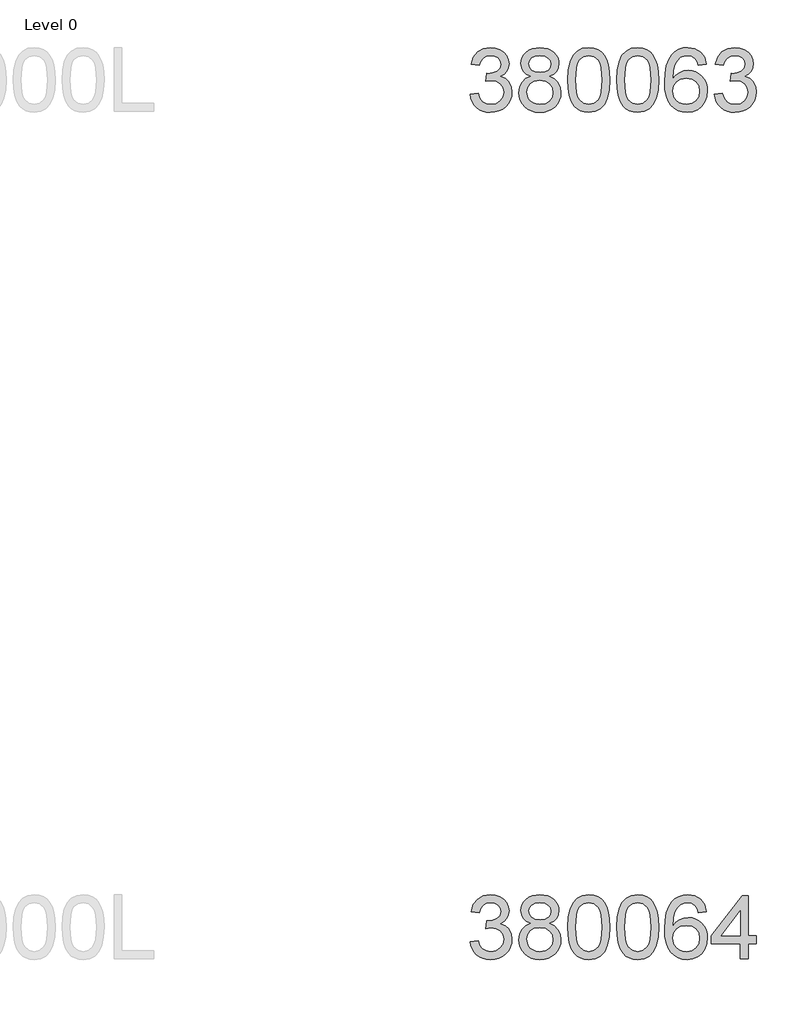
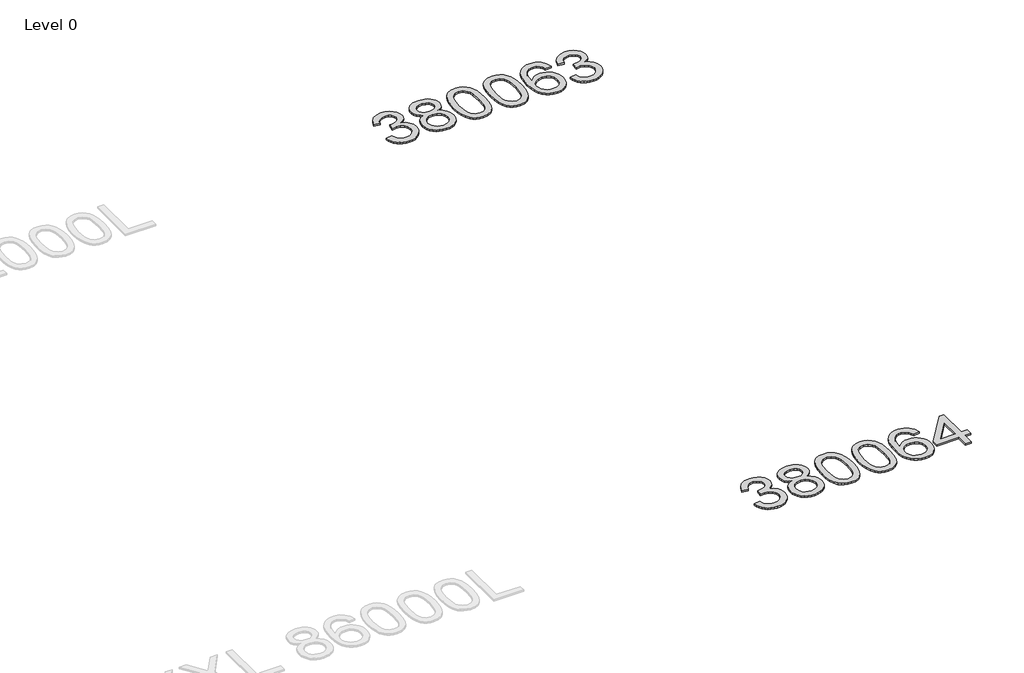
# One storey, part 31 of 37: 2 proxies.
"""IFC4 building model written with IfcOpenShell, lengths in millimetres."""

from ifc_helpers import new_model, si_unit, origin, origin_with_axes, place, context, project, spatial, polyline, outline, extrude, element, save

model = new_model("IFC4")

# Units and contexts
model_context = context("Model", 3, world=origin())
ifc_project = project(units=[si_unit("LENGTHUNIT", "METRE", prefix="MILLI")], contexts=[model_context])

# Site, building, storey
site = spatial("IfcSite", under=ifc_project)
building = spatial("IfcBuilding", under=site)
storey = spatial("IfcBuildingStorey", under=building, Name="Level 0", Elevation=0.0)

# Proxies
placement = place(None, origin())
element("IfcBuildingElementProxy", 1, Name="300mm Arial", ObjectType="300mm Arial", at=placement, inside=storey, context=model_context, shape_type="SweptSolid", body=[
    extrude(outline(polyline([(27688.7153576, -9620.925676), (27726.3864739, -9616.2167865), (27734.8201687, -9639.8899929), (27747.1718066, -9655.8744656), (27764.0483932, -9664.979545), (27786.0569335, -9668.0145714), (27811.8822496, -9663.8391108), (27831.8214537, -9651.3127288), (27844.5685649, -9632.6243235), (27848.8176019, -9609.9627926), (27844.6053531, -9588.4508929), (27831.9686065, -9571.0040893), (27812.8387428, -9559.4433976), (27789.1471423, -9555.5898337), (27762.733215, -9559.710112), (27766.9270698, -9522.0389957), (27772.9603345, -9522.4804541), (27795.5298949, -9519.7765215), (27815.7082223, -9511.6647235), (27829.9452556, -9497.942725), (27834.6909333, -9478.4081911), (27831.2512366, -9462.1386099), (27820.9321467, -9448.9408433), (27805.1867973, -9440.1944488), (27785.4683223, -9437.278984), (27765.7130592, -9440.22204), (27749.5630396, -9449.0512079), (27737.7724217, -9463.7664877), (27731.0953635, -9484.3678794), (27693.4242472, -9479.6589899), (27704.5158893, -9445.8322404), (27724.2527583, -9420.5771415), (27751.2552968, -9404.8501862), (27784.1439472, -9399.6078677), (27807.8263506, -9402.1922387), (27829.5773736, -9409.9453518), (27847.916291, -9422.1774281), (27861.362378, -9438.198689), (27869.6121317, -9456.6571681), (27872.3620496, -9476.2008991), (27869.7500874, -9494.4110579), (27861.9142009, -9510.9289595), (27848.9647547, -9525.0004458), (27831.0121133, -9535.8713587), (27854.5933492, -9545.3995024), (27872.067744, -9561.6230984), (27882.8834747, -9583.6592299), (27886.4887182, -9610.6249802), (27884.6860964, -9629.7364498), (27879.2782311, -9647.3396033), (27870.2651222, -9663.4344406), (27857.6467698, -9678.0209617), (27842.2739009, -9690.1242793), (27824.9972427, -9698.7695062), (27805.8167952, -9703.9566423), (27784.7325584, -9705.6856877), (27765.676271, -9704.2095612), (27748.3122408, -9699.7811817), (27732.6404678, -9692.4005492), (27718.660952, -9682.0676636), (27706.9393119, -9669.3895304), (27698.0411662, -9654.9731547), (27691.9665147, -9638.8185366), (27688.7153576, -9620.925676)])), origin_with_axes(), (0.0, 0.0, 1.0), 10.0),
    extrude(outline(polyline([(27974.3389387, -9534.988442), (27954.1698083, -9525.0556281), (27940.0155485, -9511.5911471), (27931.6554302, -9494.8709104), (27928.8687241, -9475.1708295), (27930.3862373, -9459.8071577), (27934.938777, -9445.7218758), (27942.5263431, -9432.9149839), (27953.1489357, -9421.3864818), (27966.2961185, -9411.8583382), (27981.4574553, -9405.0525213), (28017.8225905, -9399.6078677), (28054.4084549, -9405.18128), (28069.7353385, -9412.1480452), (28083.0848564, -9421.9015166), (28093.9005871, -9433.6553464), (28101.626109, -9446.6231867), (28106.2614221, -9460.8050376), (28107.8065265, -9476.2008991), (28105.0566086, -9495.2663835), (28096.8068549, -9511.7015117), (28082.9652948, -9525.0832192), (28063.4399579, -9534.988442), (28086.6257206, -9546.9354097), (28103.5023072, -9564.5293662), (28113.793806, -9586.9241826), (28117.2243056, -9613.2737305), (28115.5228514, -9632.0633034), (28110.4184887, -9649.2893779), (28101.9112175, -9664.9519538), (28090.001038, -9679.0510313), (28075.3133493, -9690.7036935), (28058.473551, -9699.0270236), (28039.481643, -9704.0210217), (28018.3376253, -9705.6856877), (27997.1936076, -9704.0141239), (27978.2016996, -9698.9994325), (27961.3619013, -9690.6416134), (27946.6742126, -9678.9406667), (27934.764033, -9664.7427209), (27926.2567619, -9648.8939047), (27921.1523992, -9631.3942181), (27919.450945, -9612.2436609), (27923.0194003, -9584.8732405), (27933.7247664, -9562.3588624), (27951.0152202, -9545.4730788), (27974.3389387, -9534.988442)]), holes=[polyline([(27966.5398404, -9476.2744755), (27969.8783695, -9492.7188007), (27979.8939568, -9505.8521879), (27996.2922967, -9514.4606266), (28018.7790837, -9517.3301062), (28040.7416388, -9514.4790207), (28056.8916584, -9505.9257643), (28066.8244723, -9493.2338355), (28070.1354102, -9477.9667327), (28066.7141077, -9462.1202158), (28056.4502, -9449.0144197), (28040.0794512, -9440.2128429), (28018.3376253, -9437.278984), (27996.4578436, -9440.1484636), (27980.114686, -9448.7569023), (27969.9335518, -9461.3752547), (27966.5398404, -9476.2744755)]), polyline([(27957.1220613, -9610.9192858), (27963.4128434, -9639.2829876), (27972.1224496, -9651.4506846), (27985.6697041, -9660.5097787), (28001.8933001, -9666.1383732), (28018.6319309, -9668.0145714), (28044.273306, -9664.069037), (28063.5135343, -9652.2324338), (28075.5432755, -9634.3073836), (28079.5531893, -9612.0965081), (28075.4145168, -9589.5085536), (28062.9984995, -9571.1880303), (28043.3168128, -9559.0479244), (28017.3811321, -9555.0012225), (27992.098442, -9558.9927421), (27973.0513517, -9570.9673011), (27961.1043839, -9588.9383365), (27957.1220613, -9610.9192858)])]), origin_with_axes(), (0.0, 0.0, 1.0), 10.0),
    extrude(outline(polyline([(28150.1865324, -9552.7203541), (28152.9548444, -9504.4818275), (28161.2597804, -9466.0105679), (28175.018567, -9436.717964), (28194.1484308, -9416.0154047), (28218.7873274, -9403.709752), (28249.0732127, -9399.6078677), (28272.2865666, -9402.0358889), (28293.0718993, -9409.3199524), (28310.4543236, -9421.1749497), (28323.4589521, -9437.3157722), (28333.2814014, -9457.6044643), (28341.1172879, -9481.9030701), (28346.2492417, -9512.7591724), (28347.959893, -9552.7203541), (28345.2191721, -9600.6829692), (28336.9970095, -9639.0622584), (28323.3209963, -9668.3824534), (28304.2187237, -9689.1677861), (28279.5246448, -9701.5562123), (28249.0732127, -9705.6856877), (28228.3246681, -9703.892263), (28209.9305684, -9698.5119888), (28193.8909134, -9689.5448652), (28180.2057032, -9676.9908921), (28167.0723159, -9654.2971715), (28157.6913251, -9626.0208417), (28152.0627305, -9592.1619025), (28150.1865324, -9552.7203541)]), holes=[polyline([(28187.8576487, -9552.6467777), (28192.2722326, -9611.9033701), (28197.7904625, -9632.1713688), (28205.5159844, -9646.1991691), (28225.2344594, -9662.5607208), (28249.0732127, -9668.0145714), (28272.911966, -9662.5423267), (28292.6304409, -9646.1255927), (28300.3559628, -9632.0747997), (28305.8741927, -9611.8113996), (28310.2887767, -9552.6467777), (28306.0213455, -9494.7237576), (28300.6870566, -9474.5224375), (28293.2190521, -9460.1612441), (28273.5373653, -9442.9995491), (28248.6317543, -9437.278984), (28225.0505184, -9442.3189674), (28206.1045956, -9457.4389174), (28198.1215563, -9473.0739022), (28192.4193854, -9494.1535405), (28187.8576487, -9552.6467777)])]), origin_with_axes(), (0.0, 0.0, 1.0), 10.0),
    extrude(outline(polyline([(28380.9221197, -9552.7203541), (28383.6904318, -9504.4818275), (28391.9953678, -9466.0105679), (28405.7541544, -9436.717964), (28424.8840182, -9416.0154047), (28449.5229148, -9403.709752), (28479.8088, -9399.6078677), (28503.0221539, -9402.0358889), (28523.8074867, -9409.3199524), (28541.1899109, -9421.1749497), (28554.1945395, -9437.3157722), (28564.0169887, -9457.6044643), (28571.8528752, -9481.9030701), (28576.9848291, -9512.7591724), (28578.6954803, -9552.7203541), (28575.9547595, -9600.6829692), (28567.7325969, -9639.0622584), (28554.0565837, -9668.3824534), (28534.9543111, -9689.1677861), (28510.2602322, -9701.5562123), (28479.8088, -9705.6856877), (28459.0602555, -9703.892263), (28440.6661558, -9698.5119888), (28424.6265008, -9689.5448652), (28410.9412905, -9676.9908921), (28397.8079033, -9654.2971715), (28388.4269124, -9626.0208417), (28382.7983179, -9592.1619025), (28380.9221197, -9552.7203541)]), holes=[polyline([(28418.593236, -9552.6467777), (28423.00782, -9611.9033701), (28428.5260499, -9632.1713688), (28436.2515718, -9646.1991691), (28455.9700468, -9662.5607208), (28479.8088, -9668.0145714), (28503.6475533, -9662.5423267), (28523.3660283, -9646.1255927), (28531.0915502, -9632.0747997), (28536.6097801, -9611.8113996), (28541.024364, -9552.6467777), (28536.7569329, -9494.7237576), (28531.422644, -9474.5224375), (28523.9546395, -9460.1612441), (28504.2729527, -9442.9995491), (28479.3673416, -9437.278984), (28455.7861058, -9442.3189674), (28436.840183, -9457.4389174), (28428.8571437, -9473.0739022), (28423.1549728, -9494.1535405), (28418.593236, -9552.6467777)])]), origin_with_axes(), (0.0, 0.0, 1.0), 10.0),
    extrude(outline(polyline([(28804.7221782, -9479.6589899), (28767.0510619, -9484.3678794), (28760.981009, -9465.6978682), (28752.7772405, -9452.950757), (28735.6891218, -9441.1969273), (28715.0325478, -9437.278984), (28697.5213648, -9439.5598524), (28681.0402514, -9446.4024575), (28666.8859916, -9460.8142347), (28655.3252999, -9480.6522713), (28647.5170046, -9508.7124704), (28644.6199339, -9547.7907354), (28659.7306868, -9530.1599908), (28677.839678, -9517.7347764), (28697.935232, -9510.3679394), (28719.0056733, -9507.9123271), (28737.1054675, -9509.5907887), (28753.80731, -9514.6261735), (28769.111201, -9523.0184815), (28783.0171405, -9534.7677128), (28794.5732336, -9549.1748914), (28802.8275859, -9565.5410417), (28807.7801973, -9583.8661635), (28809.4310677, -9604.150257), (28806.3224649, -9631.1252043), (28796.9966563, -9656.131983), (28782.2261942, -9677.34038), (28762.7836307, -9692.9201825), (28739.5518827, -9702.4943114), (28713.413867, -9705.6856877), (28690.9569704, -9703.5703662), (28670.6751762, -9697.2244018), (28652.5684842, -9686.6477945), (28636.6368946, -9671.8405442), (28623.6483609, -9652.1772515), (28614.3708368, -9627.0325171), (28608.8043224, -9596.406341), (28606.9488176, -9560.2987232), (28609.0089567, -9519.8179082), (28615.1893743, -9485.2691903), (28625.4900701, -9456.6525696), (28639.9110443, -9433.9680461), (28655.5414306, -9418.9354681), (28673.6642174, -9408.1979123), (28694.2794047, -9401.7553789), (28717.3869925, -9399.6078677), (28750.4411898, -9404.9237626), (28776.9102993, -9420.8714471), (28795.4515519, -9446.2001224), (28804.7221782, -9479.6589899)]), holes=[polyline([(28644.6199339, -9603.5616459), (28646.7996347, -9620.2542914), (28653.3387372, -9636.1927788), (28663.4922802, -9649.8963831), (28676.5153029, -9659.8843793), (28692.2330611, -9665.9820234), (28710.470811, -9668.0145714), (28735.3304368, -9663.8023226), (28754.8741678, -9651.165576), (28767.5385055, -9631.2999483), (28771.7599514, -9605.4010558), (28767.5936878, -9580.54143), (28755.094897, -9561.5863102), (28735.2200722, -9549.5841601), (28708.9257066, -9545.5834434), (28684.102869, -9549.5841601), (28663.3451274, -9561.5863102), (28649.3012323, -9580.0815775), (28644.6199339, -9603.5616459)])]), origin_with_axes(), (0.0, 0.0, 1.0), 10.0),
    extrude(outline(polyline([(28842.3932945, -9620.925676), (28880.0644108, -9616.2167865), (28888.4981055, -9639.8899929), (28900.8497435, -9655.8744656), (28917.7263301, -9664.979545), (28939.7348704, -9668.0145714), (28965.5601865, -9663.8391108), (28985.4993906, -9651.3127288), (28998.2465017, -9632.6243235), (29002.4955388, -9609.9627926), (28998.2832899, -9588.4508929), (28985.6465434, -9571.0040893), (28966.5166797, -9559.4433976), (28942.8250792, -9555.5898337), (28916.4111519, -9559.710112), (28920.6050067, -9522.0389957), (28926.6382714, -9522.4804541), (28949.2078318, -9519.7765215), (28969.3861592, -9511.6647235), (28983.6231924, -9497.942725), (28988.3688702, -9478.4081911), (28984.9291735, -9462.1386099), (28974.6100836, -9448.9408433), (28958.8647342, -9440.1944488), (28939.1462592, -9437.278984), (28919.3909961, -9440.22204), (28903.2409765, -9449.0512079), (28891.4503585, -9463.7664877), (28884.7733003, -9484.3678794), (28847.102184, -9479.6589899), (28858.1938262, -9445.8322404), (28877.9306952, -9420.5771415), (28904.9332337, -9404.8501862), (28937.821884, -9399.6078677), (28961.5042875, -9402.1922387), (28983.2553104, -9409.9453518), (29001.5942279, -9422.1774281), (29015.0403148, -9438.198689), (29023.2900686, -9456.6571681), (29026.0399865, -9476.2008991), (29023.4280243, -9494.4110579), (29015.5921378, -9510.9289595), (29002.6426916, -9525.0004458), (28984.6900502, -9535.8713587), (29008.2712861, -9545.3995024), (29025.7456809, -9561.6230984), (29036.5614115, -9583.6592299), (29040.1666551, -9610.6249802), (29038.3640333, -9629.7364498), (29032.956168, -9647.3396033), (29023.9430591, -9663.4344406), (29011.3247067, -9678.0209617), (28995.9518378, -9690.1242793), (28978.6751796, -9698.7695062), (28959.4947321, -9703.9566423), (28938.4104952, -9705.6856877), (28919.3542079, -9704.2095612), (28901.9901777, -9699.7811817), (28886.3184047, -9692.4005492), (28872.3388889, -9682.0676636), (28860.6172488, -9669.3895304), (28851.7191031, -9654.9731547), (28845.6444516, -9638.8185366), (28842.3932945, -9620.925676)])), origin_with_axes(), (0.0, 0.0, 1.0), 10.0),
])
element("IfcBuildingElementProxy", 2, Name="300mm Arial", ObjectType="300mm Arial", at=placement, inside=storey, context=model_context, shape_type="SweptSolid", body=[
    extrude(outline(polyline([(27688.7153576, -13620.925676), (27726.3864739, -13616.2167865), (27734.8201687, -13639.8899929), (27747.1718066, -13655.8744656), (27764.0483932, -13664.979545), (27786.0569335, -13668.0145714), (27811.8822496, -13663.8391108), (27831.8214537, -13651.3127288), (27844.5685649, -13632.6243235), (27848.8176019, -13609.9627926), (27844.6053531, -13588.4508929), (27831.9686065, -13571.0040893), (27812.8387428, -13559.4433976), (27789.1471423, -13555.5898337), (27762.733215, -13559.710112), (27766.9270698, -13522.0389957), (27772.9603345, -13522.4804541), (27795.5298949, -13519.7765215), (27815.7082223, -13511.6647235), (27829.9452556, -13497.942725), (27834.6909333, -13478.4081911), (27831.2512366, -13462.1386099), (27820.9321467, -13448.9408433), (27805.1867973, -13440.1944488), (27785.4683223, -13437.278984), (27765.7130592, -13440.22204), (27749.5630396, -13449.0512079), (27737.7724217, -13463.7664877), (27731.0953635, -13484.3678794), (27693.4242472, -13479.6589899), (27704.5158893, -13445.8322404), (27724.2527583, -13420.5771415), (27751.2552968, -13404.8501862), (27784.1439472, -13399.6078677), (27807.8263506, -13402.1922387), (27829.5773736, -13409.9453518), (27847.916291, -13422.1774281), (27861.362378, -13438.198689), (27869.6121317, -13456.6571681), (27872.3620496, -13476.2008991), (27869.7500874, -13494.4110579), (27861.9142009, -13510.9289595), (27848.9647547, -13525.0004458), (27831.0121133, -13535.8713587), (27854.5933492, -13545.3995024), (27872.067744, -13561.6230984), (27882.8834747, -13583.6592299), (27886.4887182, -13610.6249802), (27884.6860964, -13629.7364498), (27879.2782311, -13647.3396033), (27870.2651222, -13663.4344406), (27857.6467698, -13678.0209617), (27842.2739009, -13690.1242793), (27824.9972427, -13698.7695062), (27805.8167952, -13703.9566423), (27784.7325584, -13705.6856877), (27765.676271, -13704.2095612), (27748.3122408, -13699.7811817), (27732.6404678, -13692.4005492), (27718.660952, -13682.0676636), (27706.9393119, -13669.3895304), (27698.0411662, -13654.9731547), (27691.9665147, -13638.8185366), (27688.7153576, -13620.925676)])), origin_with_axes(), (0.0, 0.0, 1.0), 10.0),
    extrude(outline(polyline([(27974.3389387, -13534.988442), (27954.1698083, -13525.0556281), (27940.0155485, -13511.5911471), (27931.6554302, -13494.8709104), (27928.8687241, -13475.1708295), (27930.3862373, -13459.8071577), (27934.938777, -13445.7218758), (27942.5263431, -13432.9149839), (27953.1489357, -13421.3864818), (27966.2961185, -13411.8583382), (27981.4574553, -13405.0525213), (28017.8225905, -13399.6078677), (28054.4084549, -13405.18128), (28069.7353385, -13412.1480452), (28083.0848564, -13421.9015166), (28093.9005871, -13433.6553464), (28101.626109, -13446.6231867), (28106.2614221, -13460.8050376), (28107.8065265, -13476.2008991), (28105.0566086, -13495.2663835), (28096.8068549, -13511.7015117), (28082.9652948, -13525.0832192), (28063.4399579, -13534.988442), (28086.6257206, -13546.9354097), (28103.5023072, -13564.5293662), (28113.793806, -13586.9241826), (28117.2243056, -13613.2737305), (28115.5228514, -13632.0633034), (28110.4184887, -13649.2893779), (28101.9112175, -13664.9519538), (28090.001038, -13679.0510313), (28075.3133493, -13690.7036935), (28058.473551, -13699.0270236), (28039.481643, -13704.0210217), (28018.3376253, -13705.6856877), (27997.1936076, -13704.0141239), (27978.2016996, -13698.9994325), (27961.3619013, -13690.6416134), (27946.6742126, -13678.9406667), (27934.764033, -13664.7427209), (27926.2567619, -13648.8939047), (27921.1523992, -13631.3942181), (27919.450945, -13612.2436609), (27923.0194003, -13584.8732405), (27933.7247664, -13562.3588624), (27951.0152202, -13545.4730788), (27974.3389387, -13534.988442)]), holes=[polyline([(27966.5398404, -13476.2744755), (27969.8783695, -13492.7188007), (27979.8939568, -13505.8521879), (27996.2922967, -13514.4606266), (28018.7790837, -13517.3301062), (28040.7416388, -13514.4790207), (28056.8916584, -13505.9257643), (28066.8244723, -13493.2338355), (28070.1354102, -13477.9667327), (28066.7141077, -13462.1202158), (28056.4502, -13449.0144197), (28040.0794512, -13440.2128429), (28018.3376253, -13437.278984), (27996.4578436, -13440.1484636), (27980.114686, -13448.7569023), (27969.9335518, -13461.3752547), (27966.5398404, -13476.2744755)]), polyline([(27957.1220613, -13610.9192858), (27963.4128434, -13639.2829876), (27972.1224496, -13651.4506846), (27985.6697041, -13660.5097787), (28001.8933001, -13666.1383732), (28018.6319309, -13668.0145714), (28044.273306, -13664.069037), (28063.5135343, -13652.2324338), (28075.5432755, -13634.3073836), (28079.5531893, -13612.0965081), (28075.4145168, -13589.5085536), (28062.9984995, -13571.1880303), (28043.3168128, -13559.0479244), (28017.3811321, -13555.0012225), (27992.098442, -13558.9927421), (27973.0513517, -13570.9673011), (27961.1043839, -13588.9383365), (27957.1220613, -13610.9192858)])]), origin_with_axes(), (0.0, 0.0, 1.0), 10.0),
    extrude(outline(polyline([(28150.1865324, -13552.7203541), (28152.9548444, -13504.4818275), (28161.2597804, -13466.0105679), (28175.018567, -13436.717964), (28194.1484308, -13416.0154047), (28218.7873274, -13403.709752), (28249.0732127, -13399.6078677), (28272.2865666, -13402.0358889), (28293.0718993, -13409.3199524), (28310.4543236, -13421.1749497), (28323.4589521, -13437.3157722), (28333.2814014, -13457.6044643), (28341.1172879, -13481.9030701), (28346.2492417, -13512.7591724), (28347.959893, -13552.7203541), (28345.2191721, -13600.6829692), (28336.9970095, -13639.0622584), (28323.3209963, -13668.3824534), (28304.2187237, -13689.1677861), (28279.5246448, -13701.5562123), (28249.0732127, -13705.6856877), (28228.3246681, -13703.892263), (28209.9305684, -13698.5119888), (28193.8909134, -13689.5448652), (28180.2057032, -13676.9908921), (28167.0723159, -13654.2971715), (28157.6913251, -13626.0208417), (28152.0627305, -13592.1619025), (28150.1865324, -13552.7203541)]), holes=[polyline([(28187.8576487, -13552.6467777), (28192.2722326, -13611.9033701), (28197.7904625, -13632.1713688), (28205.5159844, -13646.1991691), (28225.2344594, -13662.5607208), (28249.0732127, -13668.0145714), (28272.911966, -13662.5423267), (28292.6304409, -13646.1255927), (28300.3559628, -13632.0747997), (28305.8741927, -13611.8113996), (28310.2887767, -13552.6467777), (28306.0213455, -13494.7237576), (28300.6870566, -13474.5224375), (28293.2190521, -13460.1612441), (28273.5373653, -13442.9995491), (28248.6317543, -13437.278984), (28225.0505184, -13442.3189674), (28206.1045956, -13457.4389174), (28198.1215563, -13473.0739022), (28192.4193854, -13494.1535405), (28187.8576487, -13552.6467777)])]), origin_with_axes(), (0.0, 0.0, 1.0), 10.0),
    extrude(outline(polyline([(28380.9221197, -13552.7203541), (28383.6904318, -13504.4818275), (28391.9953678, -13466.0105679), (28405.7541544, -13436.717964), (28424.8840182, -13416.0154047), (28449.5229148, -13403.709752), (28479.8088, -13399.6078677), (28503.0221539, -13402.0358889), (28523.8074867, -13409.3199524), (28541.1899109, -13421.1749497), (28554.1945395, -13437.3157722), (28564.0169887, -13457.6044643), (28571.8528752, -13481.9030701), (28576.9848291, -13512.7591724), (28578.6954803, -13552.7203541), (28575.9547595, -13600.6829692), (28567.7325969, -13639.0622584), (28554.0565837, -13668.3824534), (28534.9543111, -13689.1677861), (28510.2602322, -13701.5562123), (28479.8088, -13705.6856877), (28459.0602555, -13703.892263), (28440.6661558, -13698.5119888), (28424.6265008, -13689.5448652), (28410.9412905, -13676.9908921), (28397.8079033, -13654.2971715), (28388.4269124, -13626.0208417), (28382.7983179, -13592.1619025), (28380.9221197, -13552.7203541)]), holes=[polyline([(28418.593236, -13552.6467777), (28423.00782, -13611.9033701), (28428.5260499, -13632.1713688), (28436.2515718, -13646.1991691), (28455.9700468, -13662.5607208), (28479.8088, -13668.0145714), (28503.6475533, -13662.5423267), (28523.3660283, -13646.1255927), (28531.0915502, -13632.0747997), (28536.6097801, -13611.8113996), (28541.024364, -13552.6467777), (28536.7569329, -13494.7237576), (28531.422644, -13474.5224375), (28523.9546395, -13460.1612441), (28504.2729527, -13442.9995491), (28479.3673416, -13437.278984), (28455.7861058, -13442.3189674), (28436.840183, -13457.4389174), (28428.8571437, -13473.0739022), (28423.1549728, -13494.1535405), (28418.593236, -13552.6467777)])]), origin_with_axes(), (0.0, 0.0, 1.0), 10.0),
    extrude(outline(polyline([(28804.7221782, -13479.6589899), (28767.0510619, -13484.3678794), (28760.981009, -13465.6978682), (28752.7772405, -13452.950757), (28735.6891218, -13441.1969273), (28715.0325478, -13437.278984), (28697.5213648, -13439.5598524), (28681.0402514, -13446.4024575), (28666.8859916, -13460.8142347), (28655.3252999, -13480.6522713), (28647.5170046, -13508.7124704), (28644.6199339, -13547.7907354), (28659.7306868, -13530.1599908), (28677.839678, -13517.7347764), (28697.935232, -13510.3679394), (28719.0056733, -13507.9123271), (28737.1054675, -13509.5907887), (28753.80731, -13514.6261735), (28769.111201, -13523.0184815), (28783.0171405, -13534.7677128), (28794.5732336, -13549.1748914), (28802.8275859, -13565.5410417), (28807.7801973, -13583.8661635), (28809.4310677, -13604.150257), (28806.3224649, -13631.1252043), (28796.9966563, -13656.131983), (28782.2261942, -13677.34038), (28762.7836307, -13692.9201825), (28739.5518827, -13702.4943114), (28713.413867, -13705.6856877), (28690.9569704, -13703.5703662), (28670.6751762, -13697.2244018), (28652.5684842, -13686.6477945), (28636.6368946, -13671.8405442), (28623.6483609, -13652.1772515), (28614.3708368, -13627.0325171), (28608.8043224, -13596.406341), (28606.9488176, -13560.2987232), (28609.0089567, -13519.8179082), (28615.1893743, -13485.2691903), (28625.4900701, -13456.6525696), (28639.9110443, -13433.9680461), (28655.5414306, -13418.9354681), (28673.6642174, -13408.1979123), (28694.2794047, -13401.7553789), (28717.3869925, -13399.6078677), (28750.4411898, -13404.9237626), (28776.9102993, -13420.8714471), (28795.4515519, -13446.2001224), (28804.7221782, -13479.6589899)]), holes=[polyline([(28644.6199339, -13603.5616459), (28646.7996347, -13620.2542914), (28653.3387372, -13636.1927788), (28663.4922802, -13649.8963831), (28676.5153029, -13659.8843793), (28692.2330611, -13665.9820234), (28710.470811, -13668.0145714), (28735.3304368, -13663.8023226), (28754.8741678, -13651.165576), (28767.5385055, -13631.2999483), (28771.7599514, -13605.4010558), (28767.5936878, -13580.54143), (28755.094897, -13561.5863102), (28735.2200722, -13549.5841601), (28708.9257066, -13545.5834434), (28684.102869, -13549.5841601), (28663.3451274, -13561.5863102), (28649.3012323, -13580.0815775), (28644.6199339, -13603.5616459)])]), origin_with_axes(), (0.0, 0.0, 1.0), 10.0),
    extrude(outline(polyline([(28964.8244225, -13700.9767982), (28964.8244225, -13630.3434551), (28828.2666259, -13630.3434551), (28828.2666259, -13592.6723388), (28974.2422016, -13404.3167573), (29002.4955388, -13404.3167573), (29002.4955388, -13592.6723388), (29040.1666551, -13592.6723388), (29040.1666551, -13630.3434551), (29002.4955388, -13630.3434551), (29002.4955388, -13700.9767982), (28964.8244225, -13700.9767982)]), holes=[polyline([(28964.8244225, -13592.6723388), (28964.8244225, -13476.2744755), (28874.6197573, -13592.6723388), (28964.8244225, -13592.6723388)])]), origin_with_axes(), (0.0, 0.0, 1.0), 10.0),
])

save(model, "model.ifc")
